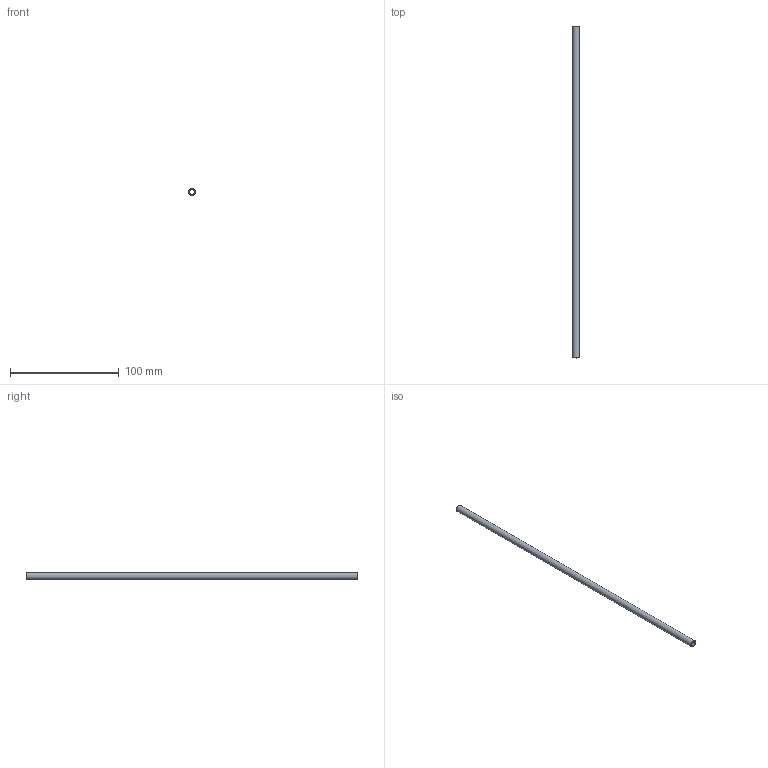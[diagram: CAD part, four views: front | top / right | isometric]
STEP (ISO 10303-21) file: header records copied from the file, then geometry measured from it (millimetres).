
FILE_DESCRIPTION(/* description */ (''),/* implementation_level */ '2;1');
FILE_NAME(/* name */ 'C:/Users/drich/Desktop/250T-12 v1.step',/* time_stamp */ '2019-12-27T17:28:15-06:00',/* author */ (''),/* organization */ (''),/* preprocessor_version */ 'ST-DEVELOPER v18',/* originating_system */ 'Autodesk Translation Framework v8.12.0.6',/* authorisation */ '');
FILE_SCHEMA (('AUTOMOTIVE_DESIGN { 1 0 10303 214 3 1 1 }'));
Length unit declared in the file: inch
Products named in the file (1): 250T-12
Bounding box: 6.24 x 304.8 x 6.24 mm (x, y, z)
Volume: 4867 mm3; surface area: 10140.3 mm2
Topology: 1 solids, 1 shells, 6 faces, 14 edges, 10 vertices
Faces by surface type: cone 2, cylinder 2, plane 2
Full cylindrical faces by diameter (mm): 4.318 x1, 6.243 x1
Entity records: 230 total; most frequent: DIRECTION 38, CARTESIAN_POINT 31, ORIENTED_EDGE 28, AXIS2_PLACEMENT_3D 17, EDGE_CURVE 14, CIRCLE 10, VERTEX_POINT 10, EDGE_LOOP 8
